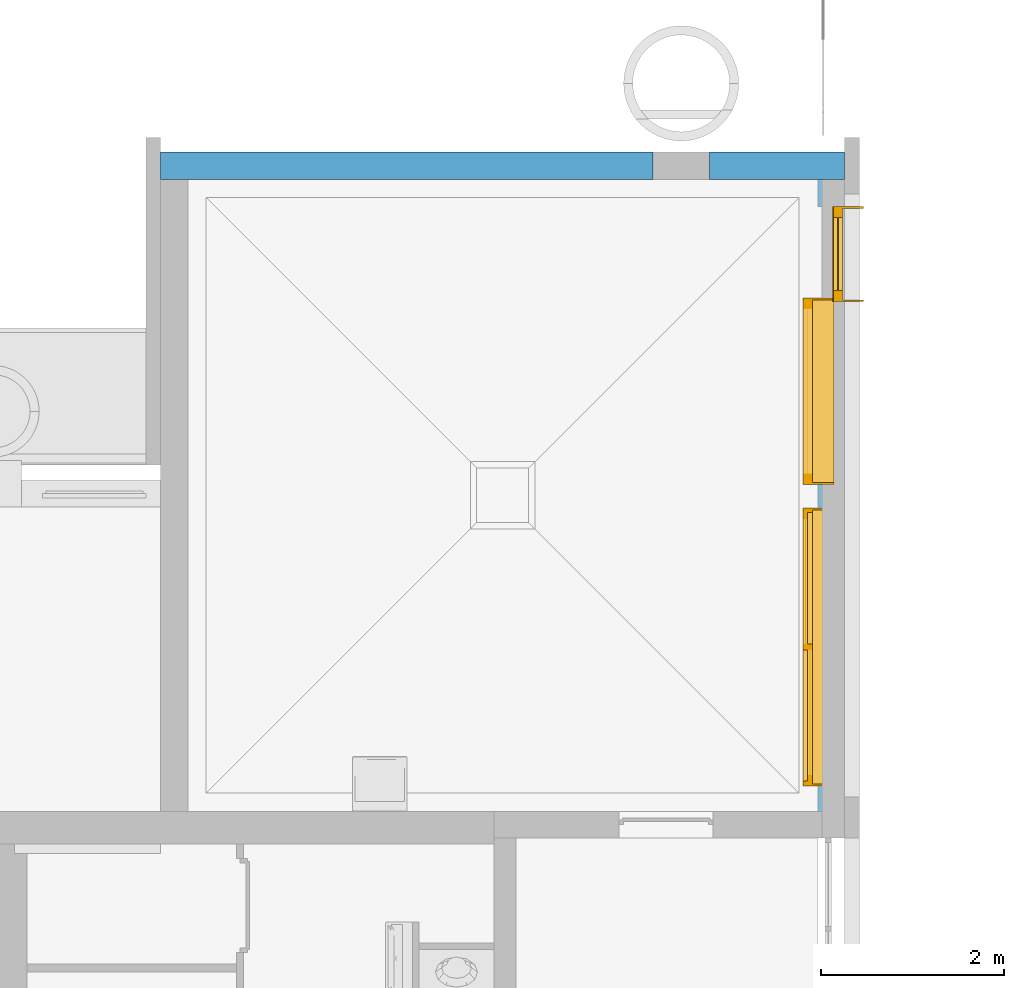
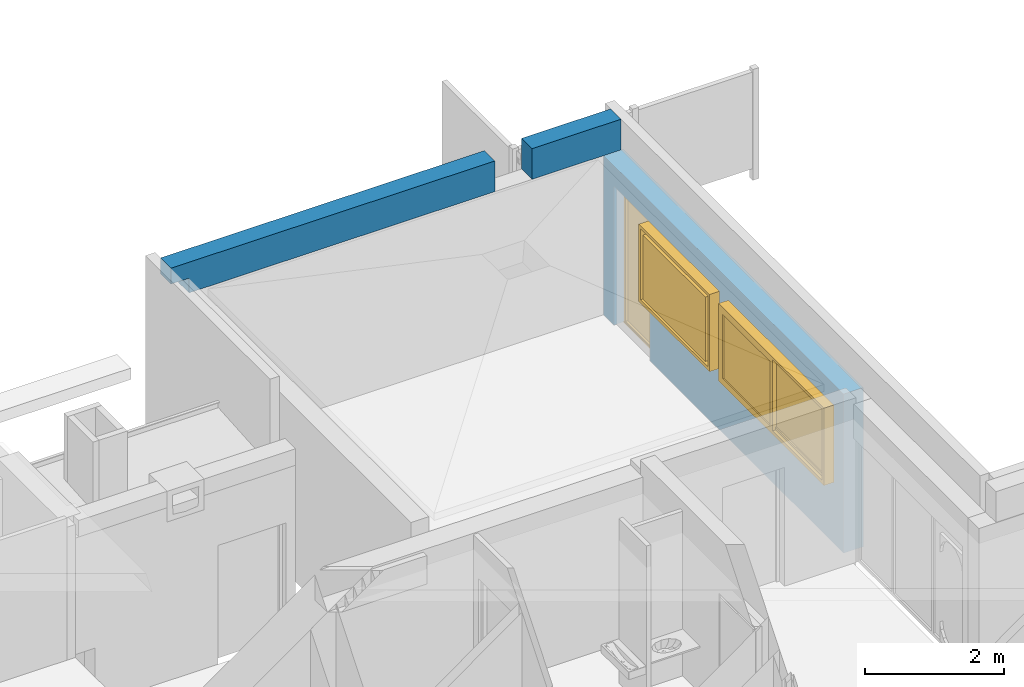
# One storey, part 41 of 64: 3 windows, 1 wall, 3 openings, plus 1 element that does not belong to this part.
"""IFC2X3 building model written with IfcOpenShell, lengths in metres."""

from ifc_helpers import new_model, entity, si_unit, converted_unit, derived_unit, direction, frame, frame_2d, origin, origin_2d_with_axis, place, context, subcontext, project, spatial, rectangle, extrude, faceted_brep, source, transform, mapped, material, layer, layer_set, layer_usage, type_object, type_shapes, element, fill, save


model = new_model("IFC2X3")

# Units and contexts
model_context = context("Model", 3, precision=1e-05, world=origin(), true_north=direction((6.123031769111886e-17, 1.0)))
body_context = subcontext(model_context, "Body", "Model", "MODEL_VIEW")
ifc_project = project(units=[si_unit("LENGTHUNIT", "METRE"), si_unit("AREAUNIT", "SQUARE_METRE"), si_unit("VOLUMEUNIT", "CUBIC_METRE"), converted_unit("PLANEANGLEUNIT", "DEGREE", entity("IfcRatioMeasure", 0.017453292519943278), si_unit("PLANEANGLEUNIT", "RADIAN"), dimensions=[0, 0, 0, 0, 0, 0, 0]), si_unit("MASSUNIT", "GRAM", prefix="KILO"), derived_unit("MASSDENSITYUNIT", [(si_unit("MASSUNIT", "GRAM", prefix="KILO"), 1), (si_unit("LENGTHUNIT", "METRE"), -3)]), derived_unit("MOMENTOFINERTIAUNIT", [(si_unit("LENGTHUNIT", "METRE"), 4)]), si_unit("TIMEUNIT", "SECOND"), si_unit("FREQUENCYUNIT", "HERTZ"), si_unit("THERMODYNAMICTEMPERATUREUNIT", "DEGREE_CELSIUS"), derived_unit("THERMALTRANSMITTANCEUNIT", [(si_unit("MASSUNIT", "GRAM", prefix="KILO"), 1), (si_unit("THERMODYNAMICTEMPERATUREUNIT", "KELVIN"), -1), (si_unit("TIMEUNIT", "SECOND"), -3)]), derived_unit("THERMALCONDUCTANCEUNIT", [(si_unit("MASSUNIT", "GRAM", prefix="KILO"), 1), (si_unit("LENGTHUNIT", "METRE"), 1), (si_unit("THERMODYNAMICTEMPERATUREUNIT", "KELVIN"), -1), (si_unit("TIMEUNIT", "SECOND"), -3)]), derived_unit("VOLUMETRICFLOWRATEUNIT", [(si_unit("LENGTHUNIT", "METRE"), 3), (si_unit("TIMEUNIT", "SECOND"), -1)]), derived_unit("MASSFLOWRATEUNIT", [(si_unit("MASSUNIT", "GRAM", prefix="KILO"), 1), (si_unit("TIMEUNIT", "SECOND"), -1)]), derived_unit("ROTATIONALFREQUENCYUNIT", [(si_unit("TIMEUNIT", "SECOND"), -1)]), si_unit("ELECTRICCURRENTUNIT", "AMPERE"), si_unit("ELECTRICVOLTAGEUNIT", "VOLT"), si_unit("POWERUNIT", "WATT"), si_unit("FORCEUNIT", "NEWTON", prefix="KILO"), si_unit("ILLUMINANCEUNIT", "LUX"), si_unit("LUMINOUSFLUXUNIT", "LUMEN"), si_unit("LUMINOUSINTENSITYUNIT", "CANDELA"), derived_unit("USERDEFINED", [(si_unit("MASSUNIT", "GRAM", prefix="KILO"), -1), (si_unit("LENGTHUNIT", "METRE"), -2), (si_unit("TIMEUNIT", "SECOND"), 3), (si_unit("LUMINOUSFLUXUNIT", "LUMEN"), 1)]), derived_unit("USERDEFINED", [(si_unit("MASSUNIT", "GRAM", prefix="KILO"), 1), (si_unit("LENGTHUNIT", "METRE"), 3), (si_unit("TIMEUNIT", "SECOND"), -3), (si_unit("ELECTRICCURRENTUNIT", "AMPERE"), -2)]), derived_unit("USERDEFINED", [(si_unit("LENGTHUNIT", "METRE"), 2), (si_unit("TIMEUNIT", "SECOND"), -2)]), derived_unit("SOUNDPOWERUNIT", [(si_unit("MASSUNIT", "GRAM", prefix="KILO"), 1), (si_unit("LENGTHUNIT", "METRE"), 2), (si_unit("TIMEUNIT", "SECOND"), -3)]), derived_unit("SOUNDPRESSUREUNIT", [(si_unit("MASSUNIT", "GRAM", prefix="KILO"), 1), (si_unit("LENGTHUNIT", "METRE"), -1), (si_unit("TIMEUNIT", "SECOND"), -2)]), derived_unit("LINEARVELOCITYUNIT", [(si_unit("LENGTHUNIT", "METRE"), 1), (si_unit("TIMEUNIT", "SECOND"), -1)]), si_unit("PRESSUREUNIT", "PASCAL"), derived_unit("USERDEFINED", [(si_unit("LENGTHUNIT", "METRE"), -2), (si_unit("MASSUNIT", "GRAM", prefix="KILO"), 1), (si_unit("TIMEUNIT", "SECOND"), -2)]), derived_unit("LINEARFORCEUNIT", [(si_unit("MASSUNIT", "GRAM", prefix="KILO"), 1), (si_unit("LENGTHUNIT", "METRE"), 1), (si_unit("TIMEUNIT", "SECOND"), -2), (si_unit("LENGTHUNIT", "METRE"), -1)]), derived_unit("PLANARFORCEUNIT", [(si_unit("MASSUNIT", "GRAM", prefix="KILO"), 1), (si_unit("LENGTHUNIT", "METRE"), 1), (si_unit("TIMEUNIT", "SECOND"), -2), (si_unit("LENGTHUNIT", "METRE"), -2)]), derived_unit("SPECIFICHEATCAPACITYUNIT", [(si_unit("LENGTHUNIT", "METRE"), 2), (si_unit("TIMEUNIT", "SECOND"), -2), (si_unit("THERMODYNAMICTEMPERATUREUNIT", "KELVIN"), -1)]), derived_unit("VAPORPERMEABILITYUNIT", [(si_unit("TIMEUNIT", "SECOND"), 1), (si_unit("LENGTHUNIT", "METRE"), -1)]), derived_unit("DYNAMICVISCOSITYUNIT", [(si_unit("MASSUNIT", "GRAM", prefix="KILO"), 1), (si_unit("LENGTHUNIT", "METRE"), -1), (si_unit("TIMEUNIT", "SECOND"), -1)]), derived_unit("THERMALEXPANSIONCOEFFICIENTUNIT", [(si_unit("THERMODYNAMICTEMPERATUREUNIT", "KELVIN"), -1)])], contexts=[model_context])

# Site, building, storey
site_placement = place(None, origin())
site = spatial("IfcSite", under=ifc_project, at=site_placement, Name="Default", CompositionType="ELEMENT")
building_placement = place(site_placement, origin())
building = spatial("IfcBuilding", under=site, at=building_placement, CompositionType="ELEMENT")
storey_placement = place(building_placement, origin())
storey = spatial("IfcBuildingStorey", under=building, at=storey_placement, Name="REZ-DE-CHAUSSÉE", CompositionType="ELEMENT", Elevation=0.0)

# Wall
wall_type_1 = type_object("IfcWallType", Name="MurExt-013", PredefinedType="NOTDEFINED")
wall_1_placement = place(storey_placement, frame((106.30075228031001, 25.8172094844, 2.8)))
element("IfcWall", 1, at=wall_1_placement, inside=storey, type_object=wall_type_1, Name="MurExt-013 255161:MurExt-013 255161", ObjectType="MurExt-013 255161:MurExt-013 255161", context=body_context, shape_type="Brep", body=[
    faceted_brep([(7.489999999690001, 0.0, 0.5400000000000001), (7.489999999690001, 0.29999999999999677, 0.5400000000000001), (6.009999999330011, 0.29999999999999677, 0.5400000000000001), (6.009999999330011, 0.0, 0.5400000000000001), (7.489999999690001, 0.29999999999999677, 0.0), (6.009999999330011, 0.29999999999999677, 0.0), (7.489999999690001, 0.0, 0.0), (6.009999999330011, 0.0, 0.0)], [[[0, 1, 2, 3]], [[1, 4, 5, 2]], [[1, 0, 6, 4]], [[3, 2, 5, 7]], [[6, 0, 3, 7]], [[4, 6, 7, 5]]]),
    faceted_brep([(0.3000000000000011, 0.0, 0.0), (0.3000000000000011, 0.29999999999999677, 0.0), (5.389999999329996, 0.29999999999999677, 0.0), (5.389999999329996, 0.0, 0.0), (0.0, 0.0, 0.5400000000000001), (0.0, 0.29999999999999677, 0.5400000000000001), (0.0, 0.29999999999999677, 0.26000000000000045), (0.0, 0.0, 0.26000000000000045), (0.3000000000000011, 0.0, 0.26000000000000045), (5.389999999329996, 0.0, 0.5400000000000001), (0.3000000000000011, 0.29999999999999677, 0.26000000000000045), (5.389999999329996, 0.29999999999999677, 0.5400000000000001)], [[[0, 1, 2, 3]], [[4, 5, 6, 7]], [[4, 7, 8, 0, 3, 9]], [[8, 10, 1, 0]], [[10, 8, 7, 6]], [[11, 9, 3, 2]], [[6, 5, 11, 2, 1, 10]], [[5, 4, 9, 11]]]),
])

# Wall, openings, windows
ifc_material_1 = material(Name="Métal - Fer")
ifc_layer_1 = layer(ifc_material_1, 0.037)
ifc_material_2 = material(Name="Air - Vide d'air")
ifc_layer_2 = layer(ifc_material_2, 0.035)
ifc_material_3 = material(Name="Isolation - Fibre de verre")
ifc_layer_3 = layer(ifc_material_3, 0.04)
ifc_layer_4 = layer(ifc_material_3, 0.145)
ifc_material_4 = material(Name="Bois - Panneaux de particules")
ifc_layer_5 = layer(ifc_material_4, 0.012)
ifc_layer_6 = layer(ifc_material_2, 0.048)
ifc_material_5 = material(Name="Plâtre - Plaques de plâtre")
ifc_layer_7 = layer(ifc_material_5, 0.013)
ifc_layer_set = layer_set([ifc_layer_1, ifc_layer_2, ifc_layer_3, ifc_layer_4, ifc_layer_5, ifc_layer_6, ifc_layer_7], Name="Mur de base:ABA MOB ITE bardage 330")
ifc_layer_usage = layer_usage(ifc_layer_set, "AXIS2", "NEGATIVE", 0.165)
wall_type_2 = type_object("IfcWallType", Name="Mur de base:ABA MOB ITE bardage 330", PredefinedType="STANDARD", material=ifc_layer_set)
wall_2_placement = place(storey_placement, frame((113.66575227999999, 25.817209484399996, 0.0), z_axis=(0.0, 0.0, 1.0), x_axis=(0.0, -1.0, 0.0)))
wall_2 = element("IfcWallStandardCase", 2, at=wall_2_placement, inside=storey, type_object=wall_type_2, material=ifc_layer_usage, Name="MurExt-002", ObjectType="Mur de base:ABA MOB ITE bardage 330", context=body_context, shape_type="SweptSolid", body=[
    extrude(rectangle(XDim=6.920000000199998, YDim=0.3299999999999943, at=frame_2d((3.460000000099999, 0.0), x_axis=(1.0, 0.0))), origin(), (0.0, 0.0, 1.0), 2.8),
])
opening_1_placement = place(wall_2_placement, frame((25.817209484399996, -113.66575227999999, 0.0), z_axis=(0.0, 0.0, 1.0), x_axis=(0.0, 1.0, 0.0)))
opening_1 = element("IfcOpeningElement", 3, at=opening_1_placement, cuts=wall_2, Name="MurExt-002", ObjectType="Opening", context=body_context, shape_type="SweptSolid", body=[
    extrude(rectangle(XDim=2.44, YDim=1.0400000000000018, at=frame_2d((0.0, 2.1649348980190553e-15), x_axis=(1.0, 0.0))), frame((113.33245228, 24.997209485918, 1.22), z_axis=(1.0, 0.0, 0.0), x_axis=(0.0, 0.0, -1.0)), (0.0, 0.0, 1.0), 0.6666000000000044),
])
opening_2_placement = place(wall_2_placement, frame((25.817209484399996, -113.66575227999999, 0.0), z_axis=(0.0, 0.0, 1.0), x_axis=(0.0, 1.0, 0.0)))
opening_2 = element("IfcOpeningElement", 4, at=opening_2_placement, cuts=wall_2, Name="MurExt-002", ObjectType="Opening", context=body_context, shape_type="SweptSolid", body=[
    extrude(rectangle(XDim=1.36, YDim=2.04, at=frame_2d((-2.1094237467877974e-15, 0.0), x_axis=(0.0, 1.0))), frame((113.33245228, 23.497209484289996, 1.7599999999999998), z_axis=(1.0, 0.0, 0.0), x_axis=(0.0, 1.0, 0.0)), (0.0, 0.0, 1.0), 0.6666000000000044),
])
opening_3_placement = place(wall_2_placement, frame((25.817209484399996, -113.66575227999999, 0.0), z_axis=(0.0, 0.0, 1.0), x_axis=(0.0, 1.0, 0.0)))
opening_3 = element("IfcOpeningElement", 5, at=opening_3_placement, cuts=wall_2, Name="MurExt-002", ObjectType="Opening", context=body_context, shape_type="SweptSolid", body=[
    extrude(rectangle(XDim=1.36, YDim=3.040000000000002, at=origin_2d_with_axis()), frame((113.33245228, 20.69720948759, 1.7599999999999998), z_axis=(1.0, 0.0, 0.0), x_axis=(0.0, 0.0, -1.0)), (0.0, 0.0, 1.0), 0.6666000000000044),
])
ifc_material_6 = material(Name="Peinture - Anthracite")
window_style_1 = type_object("IfcWindowStyle", Name="Fen-003", ConstructionType="NOTDEFINED", OperationType="NOTDEFINED", ParameterTakesPrecedence=False, Sizeable=False, material=ifc_material_6)
shared_shape_1 = source(origin(), body_context, "Body", "Brep", [
    faceted_brep([(3.0399999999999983, -0.6633, 0.0), (0.0, -0.6633, 0.0), (0.0, -0.5633, 0.0), (3.0399999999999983, -0.5633, 0.0), (3.0399999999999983, -0.6633, 1.36), (0.0, -0.6633, 1.36), (2.989999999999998, -0.6633, 0.06000000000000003), (0.04999999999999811, -0.6633, 0.06000000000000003), (0.04999999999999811, -0.6633, 1.31), (2.989999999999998, -0.6633, 1.31), (0.0, -0.5633, 1.36), (3.0399999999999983, -0.5633, 1.36), (2.989999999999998, -0.5633, 0.06000000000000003), (2.989999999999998, -0.5633, 1.31), (0.04999999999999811, -0.5633, 1.31), (0.04999999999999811, -0.5633, 0.06000000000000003), (2.989999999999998, -0.6133, 0.06000000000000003), (2.989999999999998, -0.6133, 1.31), (1.484999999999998, -0.6133, 1.31), (1.484999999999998, -0.6133, 0.06000000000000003), (1.554999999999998, -0.6133, 1.24), (2.9199999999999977, -0.6133, 1.24), (2.9199999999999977, -0.6133, 0.11000000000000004), (1.554999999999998, -0.6133, 0.11000000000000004), (2.989999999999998, -0.5883, 1.31), (2.989999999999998, -0.5883, 0.06000000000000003), (1.484999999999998, -0.5633, 1.31), (1.484999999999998, -0.5883, 1.31), (1.484999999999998, -0.5633, 0.06000000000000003), (1.484999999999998, -0.5883, 0.06000000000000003), (1.554999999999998, -0.5633, 1.24), (2.9199999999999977, -0.5633, 1.24), (2.9199999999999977, -0.5633, 0.11000000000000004), (1.554999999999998, -0.5633, 0.11000000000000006), (2.9199999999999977, -0.5932999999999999, 0.11000000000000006), (1.554999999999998, -0.5932999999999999, 0.11000000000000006), (1.554999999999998, -0.5832999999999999, 0.11000000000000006), (2.9199999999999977, -0.5832999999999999, 0.11000000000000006), (2.9199999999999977, -0.5932999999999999, 1.24), (1.554999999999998, -0.5932999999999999, 1.24), (1.554999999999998, -0.5832999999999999, 1.24), (2.9199999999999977, -0.5832999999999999, 1.24), (1.554999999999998, -0.6633, 0.06000000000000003), (1.554999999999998, -0.6633, 1.31), (0.11999999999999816, -0.6633, 1.24), (1.484999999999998, -0.6633, 1.24), (1.484999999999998, -0.6633, 0.11000000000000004), (0.11999999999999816, -0.6633, 0.11000000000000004), (1.554999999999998, -0.6133, 1.31), (1.554999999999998, -0.6383, 1.31), (1.554999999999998, -0.6383, 0.06000000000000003), (1.554999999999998, -0.6133, 0.06000000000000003), (0.04999999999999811, -0.6133, 1.31), (0.04999999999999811, -0.6383, 1.31), (0.04999999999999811, -0.6133, 0.06000000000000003), (0.04999999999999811, -0.6383, 0.06000000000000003), (0.11999999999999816, -0.6133, 1.24), (1.484999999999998, -0.6133, 1.24), (1.484999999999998, -0.6133, 0.11000000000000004), (0.11999999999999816, -0.6133, 0.11000000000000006), (1.484999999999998, -0.6433, 0.11000000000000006), (0.11999999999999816, -0.6433, 0.11000000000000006), (0.11999999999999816, -0.6333, 0.11000000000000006), (1.484999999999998, -0.6333, 0.11000000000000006), (1.484999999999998, -0.6433, 1.24), (0.11999999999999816, -0.6433, 1.24), (0.11999999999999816, -0.6333, 1.24), (1.484999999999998, -0.6333, 1.24), (3.0399999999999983, -0.5633, 1.3399999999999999), (0.0, -0.5633, 1.3399999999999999), (3.0399999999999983, -0.32330000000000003, 1.3399999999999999), (3.0399999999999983, -0.32330000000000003, 1.36), (0.0, -0.32330000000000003, 1.36), (0.0, -0.32330000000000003, 1.3399999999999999), (3.019999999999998, -0.5633, 0.020000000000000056), (3.019999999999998, -0.5633, 1.3399999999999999), (3.019999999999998, -0.32330000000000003, 1.3399999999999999), (3.019999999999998, -0.32330000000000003, 0.020000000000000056), (3.0399999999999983, -0.5633, 0.020000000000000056), (3.0399999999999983, -0.3232999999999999, 0.020000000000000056), (0.0, -0.5633, 0.020000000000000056), (0.0, -0.32330000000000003, 0.020000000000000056), (0.01999999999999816, -0.5633, 0.020000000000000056), (0.01999999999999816, -0.5633, 1.3399999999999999), (0.01999999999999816, -0.32330000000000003, 1.3399999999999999), (0.01999999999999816, -0.3232999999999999, 0.020000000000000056), (3.0399999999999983, -0.32330000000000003, 0.0), (0.0, -0.32330000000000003, 0.0)], [[[0, 1, 2, 3]], [[0, 4, 5, 1], [6, 7, 8, 9]], [[1, 5, 10, 2]], [[3, 2, 10, 11], [12, 13, 14, 15]], [[4, 0, 3, 11]], [[5, 4, 11, 10]], [[7, 6, 12, 15]], [[8, 7, 15, 14]], [[9, 8, 14, 13]], [[6, 9, 13, 12]], [[16, 17, 18, 19], [20, 21, 22, 23]], [[13, 24, 17, 16, 25, 12]], [[26, 27, 18, 17, 24, 13]], [[27, 26, 28, 29, 19, 18]], [[29, 28, 12, 25, 16, 19]], [[21, 20, 30, 31]], [[32, 22, 21, 31]], [[33, 23, 22, 32]], [[20, 23, 33, 30]], [[26, 13, 12, 28], [33, 32, 31, 30]], [[16, 17, 18, 19], [22, 23, 20, 21]], [[12, 13, 26, 28], [32, 33, 30, 31]], [[34, 35, 36, 37]], [[34, 38, 39, 35]], [[35, 39, 40, 36]], [[37, 36, 40, 41]], [[38, 34, 37, 41]], [[39, 38, 41, 40]], [[42, 43, 8, 7], [44, 45, 46, 47]], [[48, 49, 43, 42, 50, 51]], [[52, 53, 8, 43, 49, 48]], [[53, 52, 54, 55, 7, 8]], [[55, 54, 51, 50, 42, 7]], [[45, 44, 56, 57]], [[58, 46, 45, 57]], [[59, 47, 46, 58]], [[44, 47, 59, 56]], [[52, 48, 51, 54], [59, 58, 57, 56]], [[42, 43, 8, 7], [46, 47, 44, 45]], [[51, 48, 52, 54], [58, 59, 56, 57]], [[60, 61, 62, 63]], [[60, 64, 65, 61]], [[61, 65, 66, 62]], [[63, 62, 66, 67]], [[64, 60, 63, 67]], [[65, 64, 67, 66]], [[68, 11, 10, 69]], [[70, 71, 11, 68]], [[11, 71, 72, 10]], [[69, 10, 72, 73]], [[68, 69, 73, 70]], [[73, 72, 71, 70]], [[68, 69, 10, 11]], [[70, 73, 72, 71]], [[74, 75, 76, 77]], [[78, 68, 75, 74]], [[75, 68, 70, 76]], [[77, 76, 70, 79]], [[74, 77, 79, 78]], [[79, 70, 68, 78]], [[80, 69, 73, 81]], [[82, 83, 69, 80]], [[69, 83, 84, 73]], [[81, 73, 84, 85]], [[80, 81, 85, 82]], [[85, 84, 83, 82]], [[3, 78, 80, 2]], [[86, 79, 78, 3]], [[78, 79, 81, 80]], [[2, 80, 81, 87]], [[3, 2, 87, 86]], [[87, 81, 79, 86]], [[3, 2, 80, 78]], [[86, 87, 81, 79]]]),
])
type_shapes(window_style_1, [shared_shape_1])
window_1_placement = place(opening_3_placement, frame((113.99905228, 22.21720948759, 1.08), z_axis=(0.0, 0.0, 1.0), x_axis=(0.0, -1.0, 0.0)))
window_1 = element("IfcWindow", 6, at=window_1_placement, inside=storey, type_object=window_style_1, material=ifc_material_6, Name="Fen-003 141731:Fen-003 141731", ObjectType="Fen-003 141731:Fen-003 141731", OverallHeight=1.36, OverallWidth=3.040000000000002, context=body_context, shape_type="MappedRepresentation", body=[
    mapped(shared_shape_1, transform((0.0, 0.0, 0.0), scale=1.0)),
])
fill(opening_3, window_1)
window_style_2 = type_object("IfcWindowStyle", Name="Fen-003", ConstructionType="NOTDEFINED", OperationType="NOTDEFINED", ParameterTakesPrecedence=False, Sizeable=False, material=ifc_material_6)
shared_shape_2 = source(origin(), body_context, "Body", "Brep", [
    faceted_brep([(0.0, 0.23329999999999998, 0.0), (0.0, 0.3333, 0.0), (1.0399999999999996, 0.3333, 0.0), (1.0399999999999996, 0.23329999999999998, 0.0), (0.0, 0.23329999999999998, 2.44), (0.0, 0.3333, 2.44), (1.0399999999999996, 0.3333, 2.44), (0.04999999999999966, 0.3333, 0.04000000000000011), (0.9899999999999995, 0.3333, 0.04000000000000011), (0.9899999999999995, 0.3333, 2.39), (0.04999999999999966, 0.3333, 2.39), (1.0399999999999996, 0.23329999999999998, 2.44), (0.04999999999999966, 0.23329999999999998, 0.04000000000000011), (0.04999999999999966, 0.23329999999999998, 2.39), (0.9899999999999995, 0.23329999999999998, 2.39), (0.9899999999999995, 0.23329999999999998, 0.04000000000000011), (0.9199999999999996, 0.23329999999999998, 2.32), (0.9199999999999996, 0.23329999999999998, 0.09000000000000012), (0.11999999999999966, 0.23329999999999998, 0.09000000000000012), (0.11999999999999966, 0.23329999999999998, 2.32), (0.9199999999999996, 0.3333, 2.32), (0.9199999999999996, 0.3333, 0.09000000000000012), (0.11999999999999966, 0.3333, 0.09000000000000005), (0.11999999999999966, 0.3333, 2.32), (0.04999999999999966, 0.2833, 2.39), (0.04999999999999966, 0.2833, 0.04000000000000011), (0.9899999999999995, 0.2833, 2.39), (0.9899999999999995, 0.2833, 0.04000000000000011), (0.11999999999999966, 0.2783, 0.09000000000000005), (0.11999999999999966, 0.28829999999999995, 0.09000000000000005), (0.9199999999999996, 0.28829999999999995, 0.09000000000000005), (0.9199999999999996, 0.2783, 0.09000000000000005), (0.11999999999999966, 0.2783, 2.32), (0.11999999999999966, 0.28829999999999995, 2.32), (0.9199999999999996, 0.28829999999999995, 2.32), (0.9199999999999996, 0.2783, 2.32), (1.0399999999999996, 0.3333, 0.020000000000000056), (0.0, 0.3333, 0.020000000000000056), (0.0, 0.3433, 0.0), (1.0399999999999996, 0.3433, 0.0), (1.0399999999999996, 0.3433, 0.020000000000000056), (0.0, 0.3433, 0.020000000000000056), (0.0, 0.23329999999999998, 2.4199999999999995), (1.0399999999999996, 0.23329999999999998, 2.4199999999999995), (0.0, 0.0032999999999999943, 2.4199999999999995), (0.0, 0.0032999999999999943, 2.44), (1.0399999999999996, 0.0032999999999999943, 2.44), (1.0399999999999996, 0.0032999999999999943, 2.4199999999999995), (0.01999999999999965, 0.23329999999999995, 0.0), (0.01999999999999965, 0.23329999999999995, 2.4199999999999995), (0.01999999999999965, 0.0032999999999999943, 2.4199999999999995), (0.01999999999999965, 0.0032999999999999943, 0.0), (0.0, 0.0032999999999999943, 0.0), (1.0399999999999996, 0.0032999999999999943, 0.0), (1.0199999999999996, 0.23329999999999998, 0.0), (1.0199999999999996, 0.23329999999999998, 2.4199999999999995), (1.0199999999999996, 0.0032999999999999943, 2.4199999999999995), (1.0199999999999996, 0.0032999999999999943, 0.0)], [[[0, 1, 2, 3]], [[4, 5, 1, 0]], [[1, 5, 6, 2], [7, 8, 9, 10]], [[3, 2, 6, 11]], [[0, 3, 11, 4], [12, 13, 14, 15]], [[11, 6, 5, 4]], [[15, 8, 7, 12]], [[14, 9, 8, 15]], [[13, 10, 9, 14]], [[12, 7, 10, 13]], [[14, 13, 12, 15], [16, 17, 18, 19]], [[14, 9, 10, 13]], [[10, 7, 12, 13]], [[7, 8, 15, 12]], [[15, 8, 9, 14]], [[16, 20, 21, 17]], [[21, 22, 18, 17]], [[22, 23, 19, 18]], [[19, 23, 20, 16]], [[10, 9, 8, 7], [21, 20, 23, 22]], [[12, 13, 24, 25]], [[15, 14, 26, 27]], [[12, 15, 27, 25]], [[13, 14, 26, 24]], [[25, 24, 10, 7]], [[27, 26, 9, 8]], [[25, 27, 8, 7]], [[24, 26, 9, 10]], [[28, 29, 30, 31]], [[32, 33, 29, 28]], [[29, 33, 34, 30]], [[31, 30, 34, 35]], [[28, 31, 35, 32]], [[35, 34, 33, 32]], [[1, 2, 36, 37]], [[1, 38, 39, 2]], [[2, 39, 40, 36]], [[37, 36, 40, 41]], [[38, 1, 37, 41]], [[39, 38, 41, 40]], [[1, 37, 36, 2]], [[38, 41, 40, 39]], [[42, 4, 11, 43]], [[44, 45, 4, 42]], [[4, 45, 46, 11]], [[43, 11, 46, 47]], [[42, 43, 47, 44]], [[47, 46, 45, 44]], [[48, 49, 50, 51]], [[0, 42, 49, 48]], [[49, 42, 44, 50]], [[51, 50, 44, 52]], [[48, 51, 52, 0]], [[52, 44, 42, 0]], [[3, 43, 47, 53]], [[54, 55, 43, 3]], [[43, 55, 56, 47]], [[53, 47, 56, 57]], [[3, 53, 57, 54]], [[57, 56, 55, 54]]]),
])
type_shapes(window_style_2, [shared_shape_2])
window_2_placement = place(opening_1_placement, frame((113.99905228, 24.477209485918, 0.0), z_axis=(0.0, 0.0, 1.0), x_axis=(0.0, 1.0, 0.0)))
window_2 = element("IfcWindow", 7, at=window_2_placement, inside=storey, type_object=window_style_2, material=ifc_material_6, Name="Fen-003 142415:Fen-003 142415", ObjectType="Fen-003 142415:Fen-003 142415", OverallHeight=2.44, OverallWidth=1.0400000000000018, context=body_context, shape_type="MappedRepresentation", body=[
    mapped(shared_shape_2, transform((0.0, 0.0, 0.0), scale=1.0)),
])
fill(opening_1, window_2)
window_style_3 = type_object("IfcWindowStyle", Name="Fen-003", ConstructionType="NOTDEFINED", OperationType="NOTDEFINED", ParameterTakesPrecedence=False, Sizeable=False, material=ifc_material_6)
shared_shape_3 = source(origin(), body_context, "Body", "Brep", [
    faceted_brep([(0.0, -0.6633, 0.0), (0.0, -0.5633, 0.0), (2.0399999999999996, -0.5633, 0.0), (2.0399999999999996, -0.6633, 0.0), (0.0, -0.6633, 1.36), (0.0, -0.5633, 1.36), (2.0399999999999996, -0.5633, 1.36), (0.04999999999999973, -0.5633, 0.06000000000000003), (1.9899999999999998, -0.5633, 0.06000000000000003), (1.9899999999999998, -0.5633, 1.31), (0.04999999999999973, -0.5633, 1.31), (2.0399999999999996, -0.6633, 1.36), (0.04999999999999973, -0.6633, 0.06000000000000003), (0.04999999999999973, -0.6633, 1.31), (1.9899999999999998, -0.6633, 1.31), (1.9899999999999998, -0.6633, 0.06000000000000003), (1.9199999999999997, -0.6633, 1.24), (1.9199999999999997, -0.6633, 0.11000000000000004), (0.11999999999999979, -0.6633, 0.11000000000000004), (0.11999999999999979, -0.6633, 1.24), (1.9199999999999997, -0.5633, 1.24), (1.9199999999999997, -0.5633, 0.11000000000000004), (0.11999999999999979, -0.5633, 0.11000000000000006), (0.11999999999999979, -0.5633, 1.24), (0.04999999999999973, -0.6133, 1.31), (0.04999999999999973, -0.6133, 0.06000000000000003), (1.9899999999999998, -0.6133, 1.31), (1.9899999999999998, -0.6133, 0.06000000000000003), (0.11999999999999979, -0.6183, 0.11000000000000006), (0.11999999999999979, -0.6083, 0.11000000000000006), (1.9199999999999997, -0.6083, 0.11000000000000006), (1.9199999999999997, -0.6183, 0.11000000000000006), (0.11999999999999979, -0.6183, 1.24), (0.11999999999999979, -0.6083, 1.24), (1.9199999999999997, -0.6083, 1.24), (1.9199999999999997, -0.6183, 1.24), (0.0, -0.5633, 1.3399999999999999), (2.0399999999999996, -0.5633, 1.3399999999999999), (0.0, -0.32330000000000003, 1.3399999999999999), (2.0399999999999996, -0.32330000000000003, 1.3399999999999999), (2.0399999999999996, -0.32330000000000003, 1.36), (0.0, -0.32330000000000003, 1.36), (0.019999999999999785, -0.5633, 0.020000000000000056), (0.019999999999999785, -0.32330000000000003, 0.020000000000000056), (0.019999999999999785, -0.32330000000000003, 1.3399999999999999), (0.019999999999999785, -0.5633, 1.3399999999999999), (0.0, -0.5633, 0.020000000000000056), (0.0, -0.32330000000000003, 0.020000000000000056), (2.0399999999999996, -0.5633, 0.020000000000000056), (2.0399999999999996, -0.32330000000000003, 0.020000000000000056), (2.0199999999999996, -0.5633, 0.020000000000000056), (2.0199999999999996, -0.32330000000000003, 0.020000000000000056), (2.0199999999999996, -0.3232999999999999, 1.3399999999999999), (2.0199999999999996, -0.5633, 1.3399999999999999), (0.0, -0.32330000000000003, 0.0), (2.0399999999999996, -0.32330000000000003, 0.0)], [[[0, 1, 2, 3]], [[4, 5, 1, 0]], [[1, 5, 6, 2], [7, 8, 9, 10]], [[3, 2, 6, 11]], [[0, 3, 11, 4], [12, 13, 14, 15]], [[11, 6, 5, 4]], [[15, 8, 7, 12]], [[14, 9, 8, 15]], [[13, 10, 9, 14]], [[12, 7, 10, 13]], [[14, 13, 12, 15], [16, 17, 18, 19]], [[14, 9, 10, 13]], [[10, 7, 12, 13]], [[7, 8, 15, 12]], [[15, 8, 9, 14]], [[16, 20, 21, 17]], [[21, 22, 18, 17]], [[22, 23, 19, 18]], [[19, 23, 20, 16]], [[10, 9, 8, 7], [21, 20, 23, 22]], [[12, 13, 24, 25]], [[15, 14, 26, 27]], [[12, 15, 27, 25]], [[13, 14, 26, 24]], [[25, 24, 10, 7]], [[27, 26, 9, 8]], [[25, 27, 8, 7]], [[24, 26, 9, 10]], [[28, 29, 30, 31]], [[32, 33, 29, 28]], [[29, 33, 34, 30]], [[31, 30, 34, 35]], [[28, 31, 35, 32]], [[35, 34, 33, 32]], [[36, 37, 6, 5]], [[36, 38, 39, 37]], [[37, 39, 40, 6]], [[5, 6, 40, 41]], [[38, 36, 5, 41]], [[39, 38, 41, 40]], [[36, 5, 6, 37]], [[38, 41, 40, 39]], [[42, 43, 44, 45]], [[42, 46, 47, 43]], [[43, 47, 38, 44]], [[45, 44, 38, 36]], [[46, 42, 45, 36]], [[47, 46, 36, 38]], [[48, 49, 39, 37]], [[48, 50, 51, 49]], [[49, 51, 52, 39]], [[37, 39, 52, 53]], [[50, 48, 37, 53]], [[51, 50, 53, 52]], [[1, 2, 48, 46]], [[1, 54, 55, 2]], [[2, 55, 49, 48]], [[46, 48, 49, 47]], [[54, 1, 46, 47]], [[55, 54, 47, 49]], [[1, 46, 48, 2]], [[54, 47, 49, 55]]]),
])
type_shapes(window_style_3, [shared_shape_3])
window_3_placement = place(opening_2_placement, frame((113.99905228, 24.51720948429, 1.08), z_axis=(0.0, 0.0, 1.0), x_axis=(0.0, -1.0, 0.0)))
window_3 = element("IfcWindow", 8, at=window_3_placement, inside=storey, type_object=window_style_3, material=ifc_material_6, Name="Fen-003 143139:Fen-003 143139", ObjectType="Fen-003 143139:Fen-003 143139", OverallHeight=1.36, OverallWidth=2.0399999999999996, context=body_context, shape_type="MappedRepresentation", body=[
    mapped(shared_shape_3, transform((0.0, 0.0, 0.0), scale=1.0)),
])
fill(opening_2, window_3)

save(model, "model.ifc")
